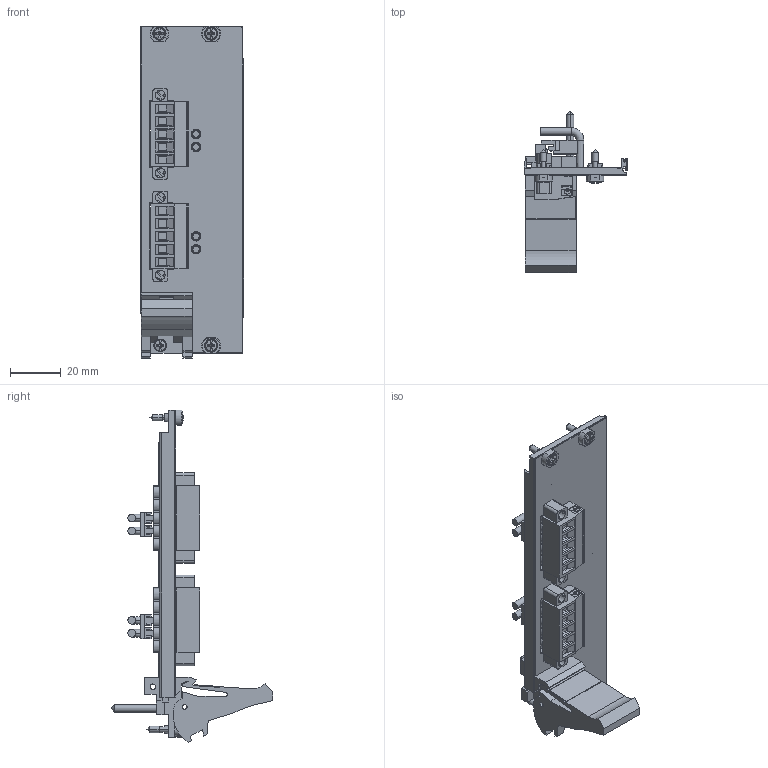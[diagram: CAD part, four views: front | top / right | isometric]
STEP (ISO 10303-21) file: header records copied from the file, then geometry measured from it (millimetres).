
FILE_DESCRIPTION((''),'2;1');
FILE_NAME('CU_PXIE-4154','2010-08-03T',('jjorden'),(''),'PRO/ENGINEER BY PARAMETRIC TECHNOLOGY CORPORATION, 2006510','PRO/ENGINEER BY PARAMETRIC TECHNOLOGY CORPORATION, 2006510','');
FILE_SCHEMA(('CONFIG_CONTROL_DESIGN'));
Length unit declared in the file: inch
Products named in the file (1): CU_PXIE-4154
Bounding box: 40.52 x 63.53 x 130.35 mm (x, y, z)
Volume: 32216 mm3; surface area: 28890.1 mm2
Topology: 4 solids, 4 shells, 1435 faces, 3726 edges, 2398 vertices
Faces by surface type: plane 970, cylinder 371, cone 50, torus 28, sphere 16
Entity records: 44003 total; most frequent: CARTESIAN_POINT 8010, DIRECTION 7579, ORIENTED_EDGE 7420, EDGE_CURVE 3710, VECTOR 2589, LINE 2589, AXIS2_PLACEMENT_3D 2495, VERTEX_POINT 2398
